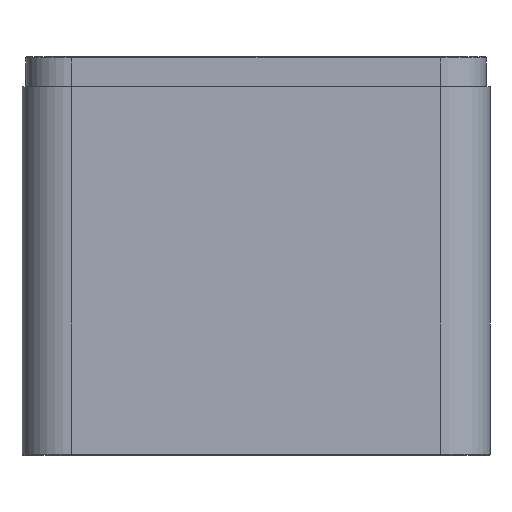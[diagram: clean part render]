
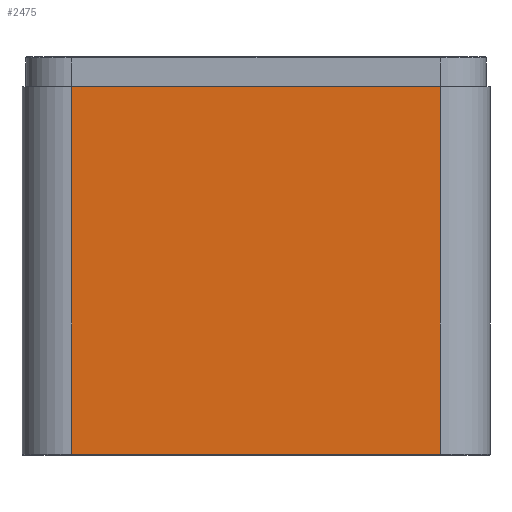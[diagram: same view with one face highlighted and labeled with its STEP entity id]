
A CAD part, front view. The second image highlights one B-rep face of the part: STEP entity #2475.
In plain terms, the highlighted planar face has unit normal (0, -1, 0).
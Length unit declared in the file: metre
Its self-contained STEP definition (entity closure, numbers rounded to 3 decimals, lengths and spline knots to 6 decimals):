
#323=ORIENTED_EDGE('',*,*,#1045,.T.);
#324=ORIENTED_EDGE('',*,*,#1046,.T.);
#325=ORIENTED_EDGE('',*,*,#1047,.F.);
#326=ORIENTED_EDGE('',*,*,#1048,.T.);
#1045=EDGE_CURVE('',#1399,#1400,#1634,.T.);
#1046=EDGE_CURVE('',#1400,#1401,#1635,.F.);
#1047=EDGE_CURVE('',#1402,#1401,#1636,.T.);
#1048=EDGE_CURVE('',#1402,#1399,#1637,.T.);
#1399=VERTEX_POINT('',#3891);
#1400=VERTEX_POINT('',#3892);
#1401=VERTEX_POINT('',#3894);
#1402=VERTEX_POINT('',#3896);
#1634=LINE('',#3890,#1872);
#1635=LINE('',#3893,#1873);
#1636=LINE('',#3895,#1874);
#1637=LINE('',#3897,#1875);
#1872=VECTOR('',#3046,1.);
#1873=VECTOR('',#3047,1.);
#1874=VECTOR('',#3048,1.);
#1875=VECTOR('',#3049,1.);
#2040=EDGE_LOOP('',(#323,#324,#325,#326));
#2220=FACE_BOUND('',#2040,.T.);
#2398=PLANE('',#2650);
#2475=ADVANCED_FACE('',(#2220),#2398,.T.);
#2650=AXIS2_PLACEMENT_3D('',#3889,#3044,#3045);
#3044=DIRECTION('',(0.,-1.,0.));
#3045=DIRECTION('',(1.,0.,0.));
#3046=DIRECTION('',(0.,0.,-1.));
#3047=DIRECTION('',(-1.,0.,0.));
#3048=DIRECTION('',(0.,0.,-1.));
#3049=DIRECTION('',(-1.,0.,0.));
#3889=CARTESIAN_POINT('',(0.,-0.1175,0.2));
#3890=CARTESIAN_POINT('',(-0.0925,-0.1175,0.2));
#3891=CARTESIAN_POINT('',(-0.0925,-0.1175,0.185));
#3892=CARTESIAN_POINT('',(-0.0925,-0.1175,0.0005));
#3893=CARTESIAN_POINT('',(0.0925,-0.1175,0.0005));
#3894=CARTESIAN_POINT('',(0.0925,-0.1175,0.0005));
#3895=CARTESIAN_POINT('',(0.0925,-0.1175,0.2));
#3896=CARTESIAN_POINT('',(0.0925,-0.1175,0.185));
#3897=CARTESIAN_POINT('',(0.,-0.1175,0.185));
